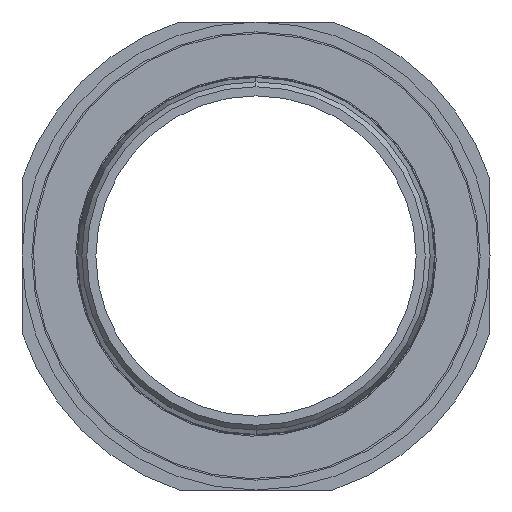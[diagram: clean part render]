
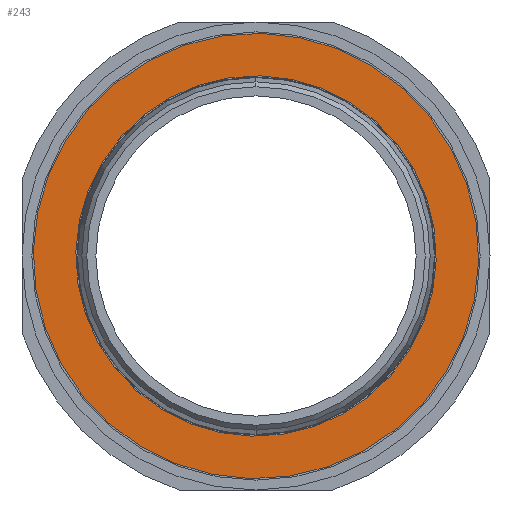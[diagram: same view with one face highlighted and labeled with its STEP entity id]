
A CAD part, left-side view. The second image highlights one B-rep face of the part: STEP entity #243.
In plain terms, the highlighted planar face has unit normal (-1, 0, 0).
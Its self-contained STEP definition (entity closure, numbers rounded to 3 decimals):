
#123 = CARTESIAN_POINT ( 'NONE',  ( -118., 1.071, -45.187 ) ) ;
#243 = ADVANCED_FACE ( 'NONE', ( #899, #903 ), #987, .T. ) ;
#475 = EDGE_CURVE ( 'NONE', #2207, #2208, #1490, .T. ) ;
#478 = EDGE_CURVE ( 'NONE', #2201, #2421, #1498, .T. ) ;
#482 = EDGE_CURVE ( 'NONE', #2421, #2201, #1502, .T. ) ;
#483 = EDGE_CURVE ( 'NONE', #2208, #2207, #1507, .T. ) ;
#680 = CARTESIAN_POINT ( 'NONE',  ( -118., -1.071, 45.187 ) ) ;
#686 = CARTESIAN_POINT ( 'NONE',  ( -118., 0.867, -36.565 ) ) ;
#687 = CARTESIAN_POINT ( 'NONE',  ( -118., -0.867, 36.565 ) ) ;
#776 = AXIS2_PLACEMENT_3D ( 'NONE', #1353, #1354, #1355 ) ;
#778 = AXIS2_PLACEMENT_3D ( 'NONE', #1363, #1364, #1365 ) ;
#780 = AXIS2_PLACEMENT_3D ( 'NONE', #1370, #1371, #1372 ) ;
#781 = AXIS2_PLACEMENT_3D ( 'NONE', #1373, #1374, #1375 ) ;
#899 = FACE_OUTER_BOUND ( 'NONE', #1914, .T. ) ;
#903 = FACE_BOUND ( 'NONE', #1910, .T. ) ;
#987 = PLANE ( 'NONE',  #2043 ) ;
#994 = CARTESIAN_POINT ( 'NONE',  ( -118., 0., 0. ) ) ;
#995 = DIRECTION ( 'NONE',  ( -1., 0., 0. ) ) ;
#996 = DIRECTION ( 'NONE',  ( 0., -0.024, 1. ) ) ;
#1353 = CARTESIAN_POINT ( 'NONE',  ( -118., 0., 0. ) ) ;
#1354 = DIRECTION ( 'NONE',  ( -1., 0., 0. ) ) ;
#1355 = DIRECTION ( 'NONE',  ( 0., -0.024, 1. ) ) ;
#1363 = CARTESIAN_POINT ( 'NONE',  ( -118., 0., 0. ) ) ;
#1364 = DIRECTION ( 'NONE',  ( -1., 0., 0. ) ) ;
#1365 = DIRECTION ( 'NONE',  ( 0., -0.024, 1. ) ) ;
#1370 = CARTESIAN_POINT ( 'NONE',  ( -118., 0., 0. ) ) ;
#1371 = DIRECTION ( 'NONE',  ( -1., 0., 0. ) ) ;
#1372 = DIRECTION ( 'NONE',  ( 0., -0.024, 1. ) ) ;
#1373 = CARTESIAN_POINT ( 'NONE',  ( -118., 0., 0. ) ) ;
#1374 = DIRECTION ( 'NONE',  ( -1., 0., 0. ) ) ;
#1375 = DIRECTION ( 'NONE',  ( 0., -0.024, 1. ) ) ;
#1490 = CIRCLE ( 'NONE', #776, 36.575 ) ;
#1498 = CIRCLE ( 'NONE', #778, 45.2 ) ;
#1502 = CIRCLE ( 'NONE', #780, 45.2 ) ;
#1507 = CIRCLE ( 'NONE', #781, 36.575 ) ;
#1910 = EDGE_LOOP ( 'NONE', ( #2142, #2143 ) ) ;
#1914 = EDGE_LOOP ( 'NONE', ( #2140, #2141 ) ) ;
#2043 = AXIS2_PLACEMENT_3D ( 'NONE', #994, #995, #996 ) ;
#2140 = ORIENTED_EDGE ( 'NONE', *, *, #482, .T. ) ;
#2141 = ORIENTED_EDGE ( 'NONE', *, *, #478, .T. ) ;
#2142 = ORIENTED_EDGE ( 'NONE', *, *, #475, .F. ) ;
#2143 = ORIENTED_EDGE ( 'NONE', *, *, #483, .F. ) ;
#2201 = VERTEX_POINT ( 'NONE', #680 ) ;
#2207 = VERTEX_POINT ( 'NONE', #686 ) ;
#2208 = VERTEX_POINT ( 'NONE', #687 ) ;
#2421 = VERTEX_POINT ( 'NONE', #123 ) ;
